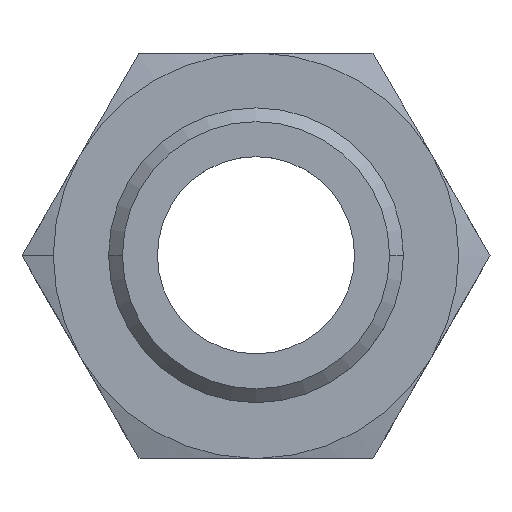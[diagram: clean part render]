
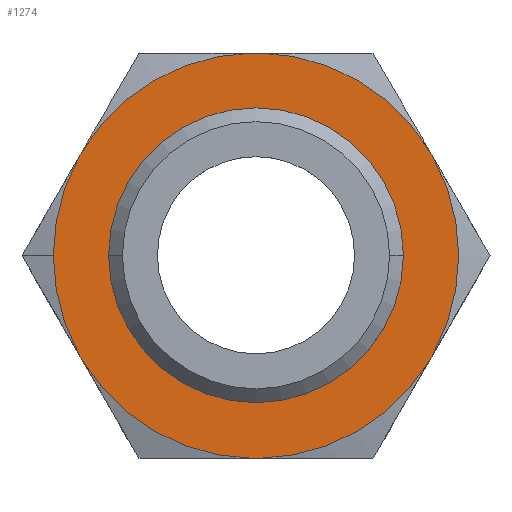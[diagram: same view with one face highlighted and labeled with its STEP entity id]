
A CAD part, top view. The second image highlights one B-rep face of the part: STEP entity #1274.
In plain terms, the highlighted planar face has unit normal (0, 0, 1).
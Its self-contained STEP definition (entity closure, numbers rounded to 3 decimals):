
#33 = CARTESIAN_POINT ( 'NONE',  ( -6.351, 11., 19.4 ) ) ;
#82 = VECTOR ( 'NONE', #201, 1000. ) ;
#83 = VECTOR ( 'NONE', #2321, 1000. ) ;
#84 = ORIENTED_EDGE ( 'NONE', *, *, #408, .F. ) ;
#97 = ORIENTED_EDGE ( 'NONE', *, *, #1718, .T. ) ;
#102 = CARTESIAN_POINT ( 'NONE',  ( -11.002, 0., 19.4 ) ) ;
#104 = ORIENTED_EDGE ( 'NONE', *, *, #1289, .T. ) ;
#141 = CARTESIAN_POINT ( 'NONE',  ( -9.429, -5.668, 19.4 ) ) ;
#162 = ORIENTED_EDGE ( 'NONE', *, *, #2196, .T. ) ;
#183 = EDGE_CURVE ( 'NONE', #1317, #2191, #1566, .T. ) ;
#186 = ORIENTED_EDGE ( 'NONE', *, *, #1091, .T. ) ;
#199 = ORIENTED_EDGE ( 'NONE', *, *, #299, .T. ) ;
#201 = DIRECTION ( 'NONE',  ( -0.5, -0.866, 0. ) ) ;
#211 = DIRECTION ( 'NONE',  ( 1., 0., 0. ) ) ;
#288 = ORIENTED_EDGE ( 'NONE', *, *, #183, .T. ) ;
#291 = VERTEX_POINT ( 'NONE', #1089 ) ;
#299 = EDGE_CURVE ( 'NONE', #1734, #808, #2303, .T. ) ;
#312 = DIRECTION ( 'NONE',  ( 0., 0., 1. ) ) ;
#318 = ORIENTED_EDGE ( 'NONE', *, *, #1654, .F. ) ;
#346 = VERTEX_POINT ( 'NONE', #2013 ) ;
#353 = VECTOR ( 'NONE', #1306, 1000. ) ;
#362 = VERTEX_POINT ( 'NONE', #1279 ) ;
#369 = CARTESIAN_POINT ( 'NONE',  ( 7.5, 0., 19.4 ) ) ;
#408 = EDGE_CURVE ( 'NONE', #789, #989, #806, .T. ) ;
#456 = AXIS2_PLACEMENT_3D ( 'NONE', #475, #1534, #1866 ) ;
#462 = CARTESIAN_POINT ( 'NONE',  ( -9.623, -5.332, 19.4 ) ) ;
#465 = CARTESIAN_POINT ( 'NONE',  ( 0., 0., 19.4 ) ) ;
#475 = CARTESIAN_POINT ( 'NONE',  ( 0., 0., 19.4 ) ) ;
#503 = CARTESIAN_POINT ( 'NONE',  ( 9.429, -5.668, 19.4 ) ) ;
#525 = DIRECTION ( 'NONE',  ( 0., 0., 1. ) ) ;
#537 = CIRCLE ( 'NONE', #2179, 11.002 ) ;
#556 = EDGE_CURVE ( 'NONE', #362, #291, #1895, .T. ) ;
#561 = LINE ( 'NONE', #1569, #83 ) ;
#634 = DIRECTION ( 'NONE',  ( 0.5, 0.866, 0. ) ) ;
#642 = CARTESIAN_POINT ( 'NONE',  ( 0., 0., 19.4 ) ) ;
#663 = DIRECTION ( 'NONE',  ( 0., 0., 1. ) ) ;
#684 = AXIS2_PLACEMENT_3D ( 'NONE', #642, #1513, #1694 ) ;
#687 = CARTESIAN_POINT ( 'NONE',  ( 0., 0., 19.4 ) ) ;
#696 = DIRECTION ( 'NONE',  ( 0.5, -0.866, 0. ) ) ;
#717 = CARTESIAN_POINT ( 'NONE',  ( 0., 0., 19.4 ) ) ;
#724 = LINE ( 'NONE', #1346, #1189 ) ;
#740 = CARTESIAN_POINT ( 'NONE',  ( 9.623, 5.332, 19.4 ) ) ;
#789 = VERTEX_POINT ( 'NONE', #369 ) ;
#806 = CIRCLE ( 'NONE', #1759, 7.5 ) ;
#808 = VERTEX_POINT ( 'NONE', #2176 ) ;
#816 = AXIS2_PLACEMENT_3D ( 'NONE', #717, #1976, #894 ) ;
#820 = ORIENTED_EDGE ( 'NONE', *, *, #2261, .T. ) ;
#833 = DIRECTION ( 'NONE',  ( 0., 0., 1. ) ) ;
#845 = CARTESIAN_POINT ( 'NONE',  ( 12.702, 0., 19.4 ) ) ;
#894 = DIRECTION ( 'NONE',  ( 1., 0., 0. ) ) ;
#901 = EDGE_CURVE ( 'NONE', #291, #1734, #1811, .T. ) ;
#943 = CIRCLE ( 'NONE', #456, 11.002 ) ;
#958 = DIRECTION ( 'NONE',  ( 0., 0., 1. ) ) ;
#961 = ORIENTED_EDGE ( 'NONE', *, *, #2242, .T. ) ;
#965 = CARTESIAN_POINT ( 'NONE',  ( -7.5, 0., 19.4 ) ) ;
#988 = AXIS2_PLACEMENT_3D ( 'NONE', #845, #1535, #1528 ) ;
#989 = VERTEX_POINT ( 'NONE', #965 ) ;
#1006 = LINE ( 'NONE', #1590, #1420 ) ;
#1054 = EDGE_CURVE ( 'NONE', #346, #2307, #1097, .T. ) ;
#1083 = VERTEX_POINT ( 'NONE', #1515 ) ;
#1087 = ORIENTED_EDGE ( 'NONE', *, *, #901, .T. ) ;
#1089 = CARTESIAN_POINT ( 'NONE',  ( -0.194, 11., 19.4 ) ) ;
#1091 = EDGE_CURVE ( 'NONE', #1232, #1083, #1474, .T. ) ;
#1097 = CIRCLE ( 'NONE', #1389, 11.002 ) ;
#1121 = CARTESIAN_POINT ( 'NONE',  ( 12.702, 0., 19.4 ) ) ;
#1169 = AXIS2_PLACEMENT_3D ( 'NONE', #687, #833, #1723 ) ;
#1170 = DIRECTION ( 'NONE',  ( -1., 0., 0. ) ) ;
#1189 = VECTOR ( 'NONE', #634, 1000. ) ;
#1228 = VERTEX_POINT ( 'NONE', #2092 ) ;
#1232 = VERTEX_POINT ( 'NONE', #141 ) ;
#1259 = CARTESIAN_POINT ( 'NONE',  ( 0., 0., 19.4 ) ) ;
#1274 = ADVANCED_FACE ( 'NONE', ( #1797, #2168 ), #2304, .T. ) ;
#1278 = DIRECTION ( 'NONE',  ( 0., 0., 1. ) ) ;
#1279 = CARTESIAN_POINT ( 'NONE',  ( 0.194, 11., 19.4 ) ) ;
#1289 = EDGE_CURVE ( 'NONE', #2030, #346, #724, .T. ) ;
#1306 = DIRECTION ( 'NONE',  ( -0.5, 0.866, 0. ) ) ;
#1317 = VERTEX_POINT ( 'NONE', #102 ) ;
#1323 = EDGE_LOOP ( 'NONE', ( #820, #1702, #1463, #1087, #199, #961, #288, #97, #186, #1594, #162, #104, #2152 ) ) ;
#1346 = CARTESIAN_POINT ( 'NONE',  ( 6.351, -11., 19.4 ) ) ;
#1359 = CIRCLE ( 'NONE', #684, 11.002 ) ;
#1389 = AXIS2_PLACEMENT_3D ( 'NONE', #2053, #312, #2254 ) ;
#1396 = CARTESIAN_POINT ( 'NONE',  ( 0., 0., 19.4 ) ) ;
#1415 = VECTOR ( 'NONE', #1170, 1000. ) ;
#1420 = VECTOR ( 'NONE', #696, 1000. ) ;
#1463 = ORIENTED_EDGE ( 'NONE', *, *, #556, .T. ) ;
#1474 = CIRCLE ( 'NONE', #1631, 11.002 ) ;
#1513 = DIRECTION ( 'NONE',  ( 0., 0., 1. ) ) ;
#1515 = CARTESIAN_POINT ( 'NONE',  ( -0.194, -11., 19.4 ) ) ;
#1528 = DIRECTION ( 'NONE',  ( 1., 0., 0. ) ) ;
#1534 = DIRECTION ( 'NONE',  ( 0., 0., 1. ) ) ;
#1535 = DIRECTION ( 'NONE',  ( 0., 0., 1. ) ) ;
#1566 = CIRCLE ( 'NONE', #816, 11.002 ) ;
#1569 = CARTESIAN_POINT ( 'NONE',  ( -6.351, -11., 19.4 ) ) ;
#1576 = CARTESIAN_POINT ( 'NONE',  ( -9.429, 5.668, 19.4 ) ) ;
#1590 = CARTESIAN_POINT ( 'NONE',  ( -12.702, 0., 19.4 ) ) ;
#1594 = ORIENTED_EDGE ( 'NONE', *, *, #1910, .T. ) ;
#1631 = AXIS2_PLACEMENT_3D ( 'NONE', #465, #663, #2231 ) ;
#1634 = VERTEX_POINT ( 'NONE', #1732 ) ;
#1645 = CIRCLE ( 'NONE', #1169, 7.5 ) ;
#1654 = EDGE_CURVE ( 'NONE', #989, #789, #1645, .T. ) ;
#1694 = DIRECTION ( 'NONE',  ( 1., 0., 0. ) ) ;
#1702 = ORIENTED_EDGE ( 'NONE', *, *, #2167, .T. ) ;
#1718 = EDGE_CURVE ( 'NONE', #2191, #1232, #1006, .T. ) ;
#1723 = DIRECTION ( 'NONE',  ( 1., 0., 0. ) ) ;
#1732 = CARTESIAN_POINT ( 'NONE',  ( 0.194, -11., 19.4 ) ) ;
#1734 = VERTEX_POINT ( 'NONE', #1576 ) ;
#1759 = AXIS2_PLACEMENT_3D ( 'NONE', #2043, #958, #2230 ) ;
#1797 = FACE_BOUND ( 'NONE', #2271, .T. ) ;
#1811 = CIRCLE ( 'NONE', #2159, 11.002 ) ;
#1866 = DIRECTION ( 'NONE',  ( 1., 0., 0. ) ) ;
#1895 = LINE ( 'NONE', #2091, #1415 ) ;
#1910 = EDGE_CURVE ( 'NONE', #1083, #1634, #561, .T. ) ;
#1976 = DIRECTION ( 'NONE',  ( 0., 0., 1. ) ) ;
#2013 = CARTESIAN_POINT ( 'NONE',  ( 9.623, -5.332, 19.4 ) ) ;
#2030 = VERTEX_POINT ( 'NONE', #503 ) ;
#2043 = CARTESIAN_POINT ( 'NONE',  ( 0., 0., 19.4 ) ) ;
#2053 = CARTESIAN_POINT ( 'NONE',  ( 0., 0., 19.4 ) ) ;
#2091 = CARTESIAN_POINT ( 'NONE',  ( 6.351, 11., 19.4 ) ) ;
#2092 = CARTESIAN_POINT ( 'NONE',  ( 9.429, 5.668, 19.4 ) ) ;
#2152 = ORIENTED_EDGE ( 'NONE', *, *, #1054, .T. ) ;
#2159 = AXIS2_PLACEMENT_3D ( 'NONE', #1259, #1278, #211 ) ;
#2167 = EDGE_CURVE ( 'NONE', #1228, #362, #537, .T. ) ;
#2168 = FACE_OUTER_BOUND ( 'NONE', #1323, .T. ) ;
#2176 = CARTESIAN_POINT ( 'NONE',  ( -9.623, 5.332, 19.4 ) ) ;
#2179 = AXIS2_PLACEMENT_3D ( 'NONE', #1396, #525, #2263 ) ;
#2191 = VERTEX_POINT ( 'NONE', #462 ) ;
#2196 = EDGE_CURVE ( 'NONE', #1634, #2030, #943, .T. ) ;
#2221 = LINE ( 'NONE', #1121, #353 ) ;
#2230 = DIRECTION ( 'NONE',  ( 1., 0., 0. ) ) ;
#2231 = DIRECTION ( 'NONE',  ( 1., 0., 0. ) ) ;
#2242 = EDGE_CURVE ( 'NONE', #808, #1317, #1359, .T. ) ;
#2254 = DIRECTION ( 'NONE',  ( 1., 0., 0. ) ) ;
#2261 = EDGE_CURVE ( 'NONE', #2307, #1228, #2221, .T. ) ;
#2263 = DIRECTION ( 'NONE',  ( 1., 0., 0. ) ) ;
#2271 = EDGE_LOOP ( 'NONE', ( #84, #318 ) ) ;
#2303 = LINE ( 'NONE', #33, #82 ) ;
#2304 = PLANE ( 'NONE',  #988 ) ;
#2307 = VERTEX_POINT ( 'NONE', #740 ) ;
#2321 = DIRECTION ( 'NONE',  ( 1., 0., 0. ) ) ;
